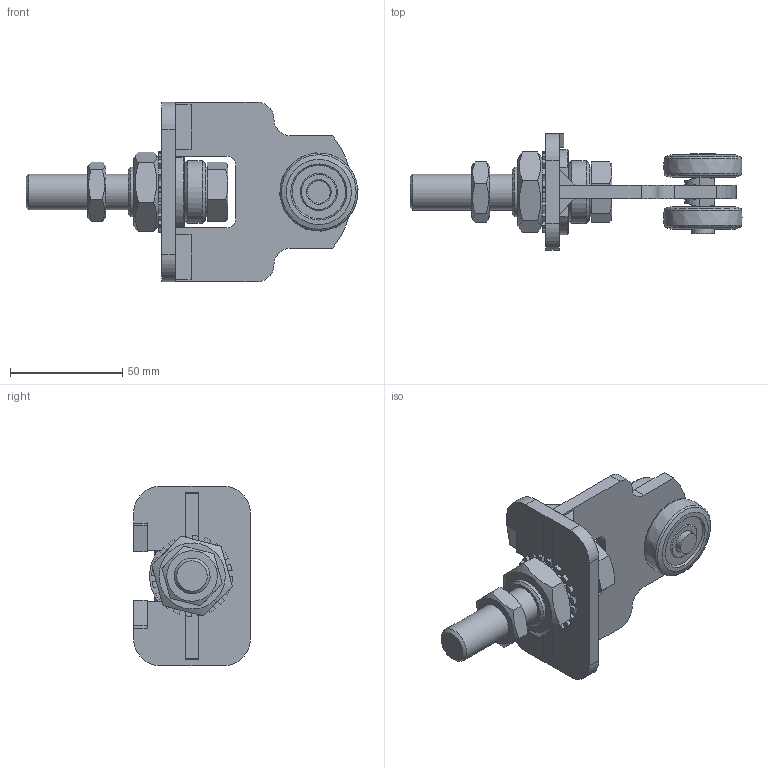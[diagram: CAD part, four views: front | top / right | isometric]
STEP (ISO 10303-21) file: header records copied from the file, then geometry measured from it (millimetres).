
FILE_DESCRIPTION(/* description */ ('Einfachrolle Horizontal Nr.2'),/* implementation_level */ '2;1');
FILE_NAME(/* name */ 'Q:\sge-ma\Produktmanagement-STB\STB\Workspace\TraceParts\Einfachrolle horizontal drehbar\010336352.stp',/* time_stamp */ '2018-03-02T09:54:22+01:00',/* author */ ('avschreier'),/* organization */ (''),/* preprocessor_version */ 'ST-DEVELOPER v16.1',/* originating_system */ 'Autodesk Inventor 2016',/* authorisation */ '');
FILE_SCHEMA (('CONFIG_CONTROL_DESIGN'));
Length unit declared in the file: millimetre
Products named in the file (13): 010336352_Schweißnähte; 000302056; 000302057; 000303236; 336290020; 000304013; 000302004; 000302005; DIN_EN_ISO_4035-M22_en; DIN_EN_ISO_4035-M16_en; DIN_6798-A_23_en; DIN_EN_ISO_4017-M16x80_en; 010336352
Assembly tree (14 placements, depth 2):
  010336352
    010336352_Schweißnähte
    000302056
    000302057
    000303236  x2
    336290020  x2
    000304013
    000302004
    000302005
    DIN_EN_ISO_4035-M22_en
    DIN_EN_ISO_4035-M16_en
    DIN_6798-A_23_en
    DIN_EN_ISO_4017-M16x80_en
Bounding box: 147.95 x 52 x 80 mm (x, y, z)
Volume: 106015.8 mm3; surface area: 48449.8 mm2
Topology: 17 solids, 17 shells, 403 faces, 1011 edges, 654 vertices
Faces by surface type: plane 216, cylinder 122, cone 42, bspline 18, torus 5
Full cylindrical faces by diameter (mm): 10 x3, 12 x1, 13.835 x1, 14.917 x1, 16 x1, 16.2 x1, 16.5 x1, 19.294 x1, 22 x2, 23 x1, 28 x1
Entity records: 11585 total; most frequent: CARTESIAN_POINT 3003, DIRECTION 1796, ORIENTED_EDGE 1666, EDGE_CURVE 833, AXIS2_PLACEMENT_3D 655, VERTEX_POINT 566, LINE 486, VECTOR 486
